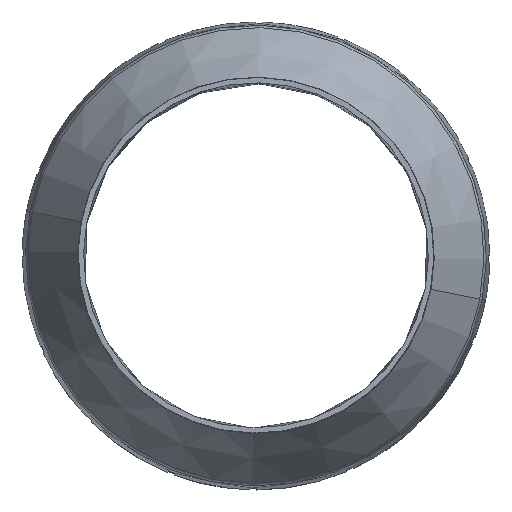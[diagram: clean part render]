
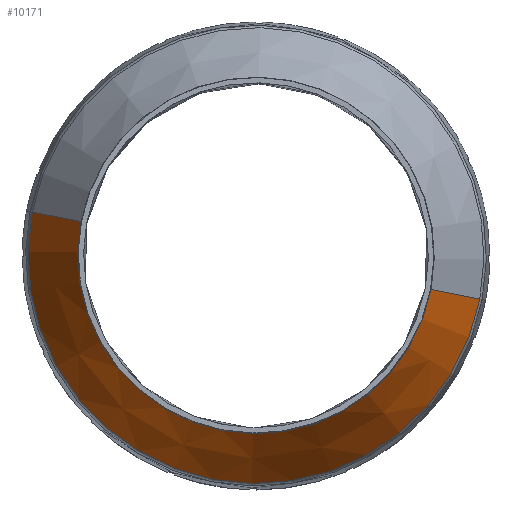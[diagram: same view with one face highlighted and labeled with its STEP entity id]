
A CAD part, top view. The second image highlights one B-rep face of the part: STEP entity #10171.
In plain terms, the highlighted conical face has half-angle 30.028 degrees and reference radius 64.125 mm.
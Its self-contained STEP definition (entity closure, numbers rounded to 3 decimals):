
#559 = CARTESIAN_POINT ( 'NONE',  ( -62.947, 12.236, -32.529 ) ) ;
#2093 = EDGE_CURVE ( 'NONE', #6108, #17726, #17322, .T. ) ;
#2581 = DIRECTION ( 'NONE',  ( 0., 0., -1. ) ) ;
#4937 = CIRCLE ( 'NONE', #7246, 49.634 ) ;
#5002 = LINE ( 'NONE', #559, #5048 ) ;
#5045 = DIRECTION ( 'NONE',  ( 0., 0., -1. ) ) ;
#5048 = VECTOR ( 'NONE', #9217, 1000. ) ;
#5163 = CONICAL_SURFACE ( 'NONE', #7743, 64.125, 0.524 ) ;
#5269 = CARTESIAN_POINT ( 'NONE',  ( 62.947, -12.236, -32.529 ) ) ;
#5273 = FACE_OUTER_BOUND ( 'NONE', #15346, .T. ) ;
#5498 = DIRECTION ( 'NONE',  ( -0.982, 0.191, 0. ) ) ;
#5805 = ORIENTED_EDGE ( 'NONE', *, *, #10449, .T. ) ;
#6108 = VERTEX_POINT ( 'NONE', #17731 ) ;
#6464 = ORIENTED_EDGE ( 'NONE', *, *, #2093, .T. ) ;
#6488 = ORIENTED_EDGE ( 'NONE', *, *, #8237, .F. ) ;
#6572 = CARTESIAN_POINT ( 'NONE',  ( 48.722, -9.471, -7.458 ) ) ;
#6939 = CARTESIAN_POINT ( 'NONE',  ( 0., 0., -32.529 ) ) ;
#7246 = AXIS2_PLACEMENT_3D ( 'NONE', #13501, #5045, #14917 ) ;
#7412 = ORIENTED_EDGE ( 'NONE', *, *, #10478, .T. ) ;
#7582 = VECTOR ( 'NONE', #13722, 1000. ) ;
#7658 = LINE ( 'NONE', #5269, #7582 ) ;
#7743 = AXIS2_PLACEMENT_3D ( 'NONE', #6939, #2581, #5498 ) ;
#8237 = EDGE_CURVE ( 'NONE', #17346, #17726, #7658, .T. ) ;
#8350 = AXIS2_PLACEMENT_3D ( 'NONE', #16309, #16286, #16253 ) ;
#9217 = DIRECTION ( 'NONE',  ( -0.491, 0.095, -0.866 ) ) ;
#10141 = VERTEX_POINT ( 'NONE', #11054 ) ;
#10171 = ADVANCED_FACE ( 'NONE', ( #5273 ), #5163, .T. ) ;
#10449 = EDGE_CURVE ( 'NONE', #10141, #6108, #5002, .T. ) ;
#10478 = EDGE_CURVE ( 'NONE', #17346, #10141, #4937, .T. ) ;
#11054 = CARTESIAN_POINT ( 'NONE',  ( -48.722, 9.471, -7.458 ) ) ;
#13501 = CARTESIAN_POINT ( 'NONE',  ( 0., 0., -7.458 ) ) ;
#13722 = DIRECTION ( 'NONE',  ( 0.491, -0.095, -0.866 ) ) ;
#14917 = DIRECTION ( 'NONE',  ( -0.982, 0.191, 0. ) ) ;
#15346 = EDGE_LOOP ( 'NONE', ( #6488, #7412, #5805, #6464 ) ) ;
#16253 = DIRECTION ( 'NONE',  ( 0.982, -0.191, 0. ) ) ;
#16286 = DIRECTION ( 'NONE',  ( 0., 0., 1. ) ) ;
#16309 = CARTESIAN_POINT ( 'NONE',  ( 0., 0., -31.378 ) ) ;
#16375 = CARTESIAN_POINT ( 'NONE',  ( 62.294, -12.109, -31.378 ) ) ;
#17322 = CIRCLE ( 'NONE', #8350, 63.46 ) ;
#17346 = VERTEX_POINT ( 'NONE', #6572 ) ;
#17726 = VERTEX_POINT ( 'NONE', #16375 ) ;
#17731 = CARTESIAN_POINT ( 'NONE',  ( -62.294, 12.109, -31.378 ) ) ;
